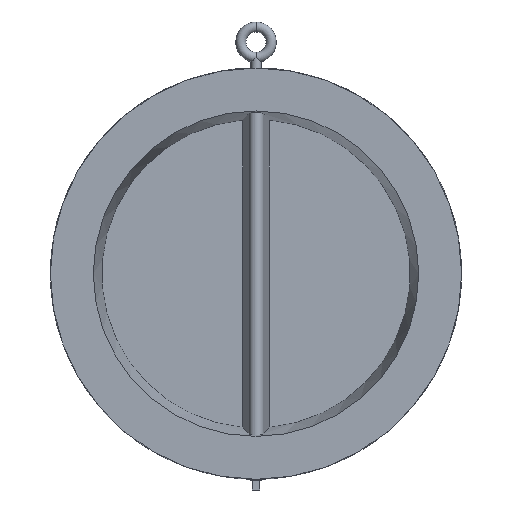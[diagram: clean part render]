
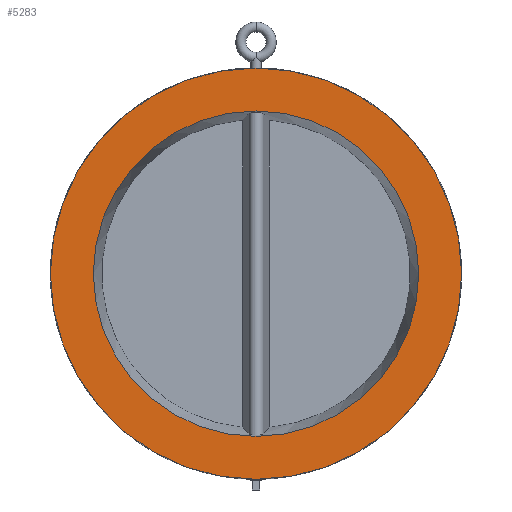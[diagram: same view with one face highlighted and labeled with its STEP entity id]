
A CAD part, front view. The second image highlights one B-rep face of the part: STEP entity #5283.
In plain terms, the highlighted planar face has unit normal (0, -1, 0).
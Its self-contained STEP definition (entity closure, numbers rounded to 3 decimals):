
#38 = CARTESIAN_POINT ( 'NONE',  ( 0., 0., -290. ) ) ;
#260 = AXIS2_PLACEMENT_3D ( 'NONE', #296, #295, #294 ) ;
#294 = DIRECTION ( 'NONE',  ( 0., 0., -1. ) ) ;
#295 = DIRECTION ( 'NONE',  ( 0., -1., 0. ) ) ;
#296 = CARTESIAN_POINT ( 'NONE',  ( 0., 0., 0. ) ) ;
#297 = CIRCLE ( 'NONE', #260, 290. ) ;
#628 = AXIS2_PLACEMENT_3D ( 'NONE', #645, #644, #643 ) ;
#641 = CARTESIAN_POINT ( 'NONE',  ( 0., 0., 366.5 ) ) ;
#643 = DIRECTION ( 'NONE',  ( 0., 0., -1. ) ) ;
#644 = DIRECTION ( 'NONE',  ( 0., -1., 0. ) ) ;
#645 = CARTESIAN_POINT ( 'NONE',  ( 0., 0., 0. ) ) ;
#669 = CIRCLE ( 'NONE', #628, 366.5 ) ;
#768 = CIRCLE ( 'NONE', #816, 366.5 ) ;
#813 = DIRECTION ( 'NONE',  ( 0., 0., -1. ) ) ;
#814 = DIRECTION ( 'NONE',  ( 0., -1., 0. ) ) ;
#815 = CARTESIAN_POINT ( 'NONE',  ( 0., 0., 0. ) ) ;
#816 = AXIS2_PLACEMENT_3D ( 'NONE', #815, #814, #813 ) ;
#832 = CARTESIAN_POINT ( 'NONE',  ( 0., 0., -366.5 ) ) ;
#2197 = AXIS2_PLACEMENT_3D ( 'NONE', #2255, #2254, #2253 ) ;
#2198 = AXIS2_PLACEMENT_3D ( 'NONE', #2233, #2275, #2274 ) ;
#2232 = FACE_BOUND ( 'NONE', #5291, .T. ) ;
#2233 = CARTESIAN_POINT ( 'NONE',  ( -290., 0., 0. ) ) ;
#2239 = PLANE ( 'NONE',  #2198 ) ;
#2247 = FACE_OUTER_BOUND ( 'NONE', #5233, .T. ) ;
#2253 = DIRECTION ( 'NONE',  ( 0., 0., -1. ) ) ;
#2254 = DIRECTION ( 'NONE',  ( 0., -1., 0. ) ) ;
#2255 = CARTESIAN_POINT ( 'NONE',  ( 0., 0., 0. ) ) ;
#2256 = CIRCLE ( 'NONE', #2197, 290. ) ;
#2274 = DIRECTION ( 'NONE',  ( 0., 0., 1. ) ) ;
#2275 = DIRECTION ( 'NONE',  ( 0., 1., 0. ) ) ;
#4014 = CARTESIAN_POINT ( 'NONE',  ( 0., 0., 290. ) ) ;
#4434 = VERTEX_POINT ( 'NONE', #4014 ) ;
#4449 = VERTEX_POINT ( 'NONE', #38 ) ;
#4510 = EDGE_CURVE ( 'NONE', #4434, #4449, #297, .T. ) ;
#4611 = EDGE_CURVE ( 'NONE', #4663, #4622, #669, .T. ) ;
#4622 = VERTEX_POINT ( 'NONE', #641 ) ;
#4650 = EDGE_CURVE ( 'NONE', #4622, #4663, #768, .T. ) ;
#4663 = VERTEX_POINT ( 'NONE', #832 ) ;
#5233 = EDGE_LOOP ( 'NONE', ( #5234, #5250 ) ) ;
#5234 = ORIENTED_EDGE ( 'NONE', *, *, #4611, .T. ) ;
#5250 = ORIENTED_EDGE ( 'NONE', *, *, #4650, .T. ) ;
#5269 = ORIENTED_EDGE ( 'NONE', *, *, #5270, .F. ) ;
#5270 = EDGE_CURVE ( 'NONE', #4449, #4434, #2256, .T. ) ;
#5283 = ADVANCED_FACE ( 'NONE', ( #2247, #2232 ), #2239, .F. ) ;
#5291 = EDGE_LOOP ( 'NONE', ( #5269, #5296 ) ) ;
#5296 = ORIENTED_EDGE ( 'NONE', *, *, #4510, .F. ) ;
